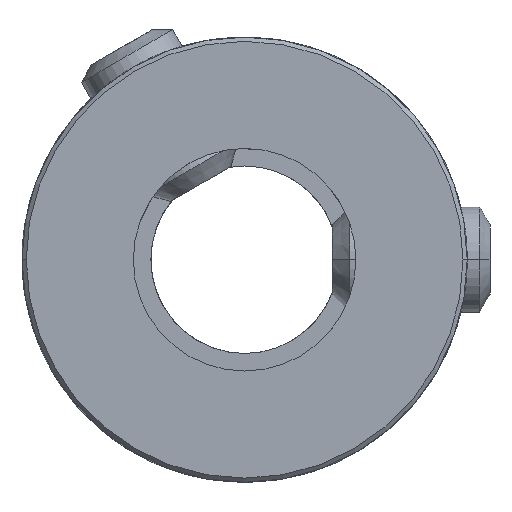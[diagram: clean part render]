
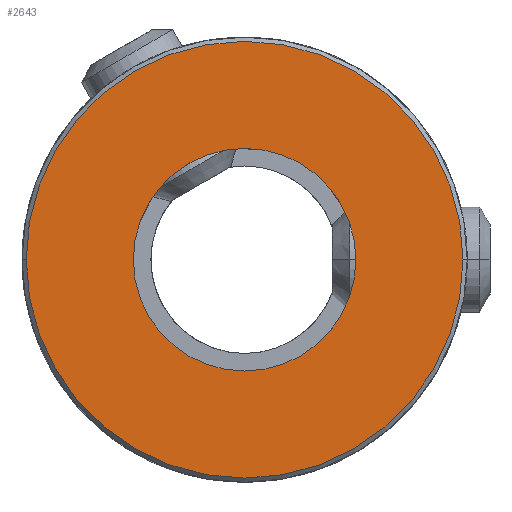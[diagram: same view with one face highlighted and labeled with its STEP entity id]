
A CAD part, front view. The second image highlights one B-rep face of the part: STEP entity #2643.
In plain terms, the highlighted planar face has unit normal (0, -1, 0).
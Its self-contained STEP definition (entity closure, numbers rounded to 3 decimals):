
#1=CARTESIAN_POINT('',(0.,-12.7,0.));
#2=DIRECTION('',(0.,-1.,0.));
#3=DIRECTION('',(-1.,0.,0.));
#4=AXIS2_PLACEMENT_3D('',#1,#2,#3);
#6=CARTESIAN_POINT('',(0.,-12.7,0.));
#7=DIRECTION('',(0.,-1.,0.));
#8=DIRECTION('',(1.,0.,0.));
#9=AXIS2_PLACEMENT_3D('',#6,#7,#8);
#11=CARTESIAN_POINT('',(0.,-12.7,0.));
#12=DIRECTION('',(0.,1.,0.));
#13=DIRECTION('',(1.,0.,0.));
#14=AXIS2_PLACEMENT_3D('',#11,#12,#13);
#16=CARTESIAN_POINT('',(0.,-12.7,0.));
#17=DIRECTION('',(0.,1.,0.));
#18=DIRECTION('',(-1.,0.,0.));
#19=AXIS2_PLACEMENT_3D('',#16,#17,#18);
#2415=CARTESIAN_POINT('',(3.175,-12.7,0.));
#2416=CARTESIAN_POINT('',(-3.175,-12.7,0.));
#2417=VERTEX_POINT('',#2415);
#2418=VERTEX_POINT('',#2416);
#2435=CARTESIAN_POINT('',(-6.23,-12.7,0.));
#2436=CARTESIAN_POINT('',(6.23,-12.7,0.));
#2437=VERTEX_POINT('',#2435);
#2438=VERTEX_POINT('',#2436);
#2626=CARTESIAN_POINT('',(0.,-12.7,0.));
#2627=DIRECTION('',(0.,1.,0.));
#2628=DIRECTION('',(1.,0.,0.));
#2629=AXIS2_PLACEMENT_3D('',#2626,#2627,#2628);
#2630=PLANE('',#2629);
#2632=ORIENTED_EDGE('',*,*,#2631,.F.);
#2634=ORIENTED_EDGE('',*,*,#2633,.F.);
#2635=EDGE_LOOP('',(#2632,#2634));
#2636=FACE_OUTER_BOUND('',#2635,.F.);
#2638=ORIENTED_EDGE('',*,*,#2637,.F.);
#2640=ORIENTED_EDGE('',*,*,#2639,.F.);
#2641=EDGE_LOOP('',(#2638,#2640));
#2642=FACE_BOUND('',#2641,.F.);
#2643=ADVANCED_FACE('',(#2636,#2642),#2630,.F.);
#5=CIRCLE('',#4,6.23);
#10=CIRCLE('',#9,6.23);
#15=CIRCLE('',#14,3.175);
#20=CIRCLE('',#19,3.175);
#2631=EDGE_CURVE('',#2437,#2438,#5,.T.);
#2633=EDGE_CURVE('',#2438,#2437,#10,.T.);
#2637=EDGE_CURVE('',#2417,#2418,#15,.T.);
#2639=EDGE_CURVE('',#2418,#2417,#20,.T.);
